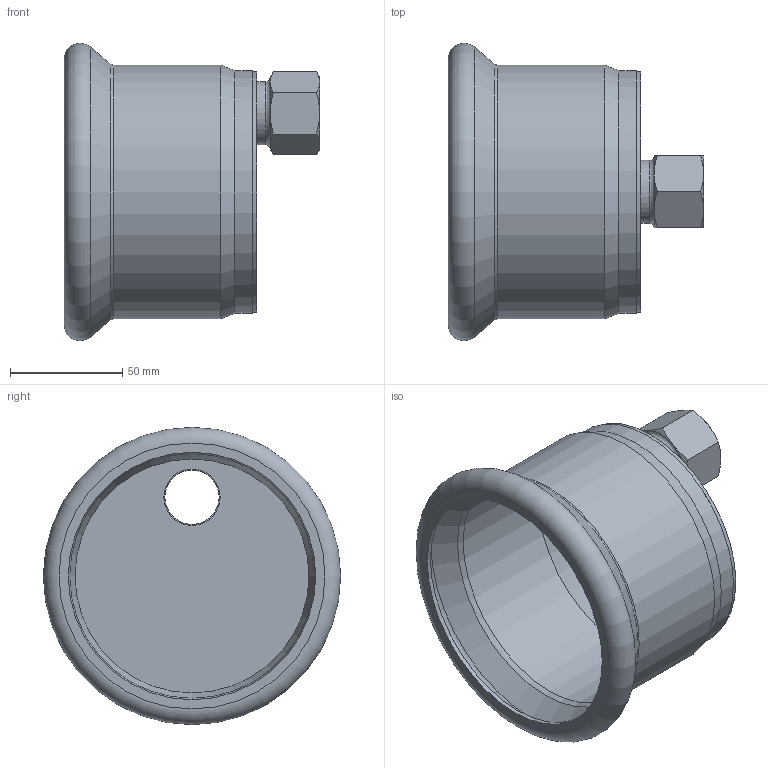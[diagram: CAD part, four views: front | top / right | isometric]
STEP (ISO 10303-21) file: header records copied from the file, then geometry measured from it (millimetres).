
FILE_DESCRIPTION((''),'2;1');
FILE_NAME('G:\Nirosan-Schmiedefeld\Technics\CAD\001 Serie 9.000\108\69301e10834h(1).stp','2018-10-16T11:03:40',('herberg'),(''),'Autodesk Inventor 2009','Autodesk Inventor 2009','');
FILE_SCHEMA(('AUTOMOTIVE_DESIGN { 1 0 10303 214 1 1 1 1 }'));
Length unit declared in the file: millimetre
Products named in the file (4): 69301e10834h(1); 69HM108P(0); 69KAME10834p(1); IG2834(1)
Assembly tree (3 placements, depth 2):
  69301e10834h(1)
    69HM108P(0)
    69KAME10834p(1)
    IG2834(1)
Bounding box: 113.5 x 132.17 x 132.17 mm (x, y, z)
Volume: 94094.1 mm3; surface area: 91980.9 mm2
Topology: 3 solids, 3 shells, 46 faces, 93 edges, 55 vertices
Faces by surface type: cone 17, plane 13, cylinder 7, bspline 7, torus 2
Full cylindrical faces by diameter (mm): 28 x1, 104 x1, 107 x1, 108 x1, 108.7 x1, 110 x1, 112.7 x1
Entity records: 1318 total; most frequent: CARTESIAN_POINT 407, DIRECTION 176, ORIENTED_EDGE 138, AXIS2_PLACEMENT_3D 85, EDGE_LOOP 74, EDGE_CURVE 69, VERTEX_POINT 51, FACE_OUTER_BOUND 46
